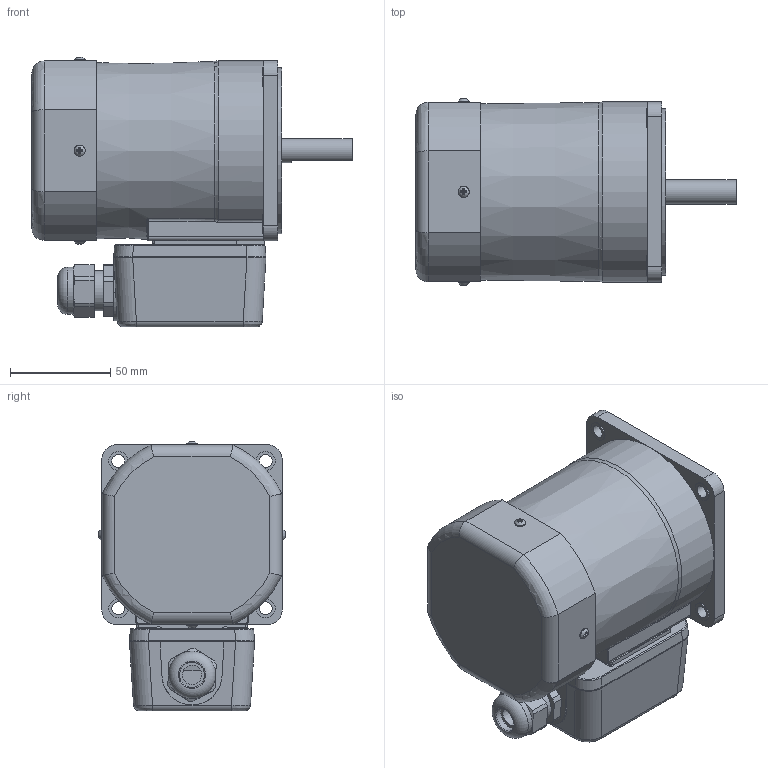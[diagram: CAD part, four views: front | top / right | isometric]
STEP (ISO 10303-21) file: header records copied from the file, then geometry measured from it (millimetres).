
FILE_DESCRIPTION((''),'2;1');
FILE_NAME('D:\김성묵\업무폴더\개발 파일\프로젝트 개발 AB등급\AC표준형 개발자료\90각 이하 표준형 개발\도면작성 자료\3D 도면\홈페이지용 3D 파일\60W MOTOR\T BOX TYPE\S9(I,R)60D-T.stp','2015-03-26T18:27:06',('smkim'),(''),'Autodesk Inventor 2012','Autodesk Inventor 2012','');
FILE_SCHEMA(('AUTOMOTIVE_DESIGN { 1 0 10303 214 1 1 1 1 }'));
Length unit declared in the file: millimetre
Products named in the file (7): S9(I,R)60D-T; S9I60GㅁTCE; FAN COVER; 552300620; 25W_T_BOX; S9I60D
Assembly tree (9 placements, depth 3):
  S9(I,R)60D-T
    S9I60GㅁTCE
    FAN COVER
      FAN COVER
      552300620  x4
    25W_T_BOX
    S9I60D
Bounding box: 159.8 x 93.49 x 134.75 mm (x, y, z)
Volume: 1086594.4 mm3; surface area: 114000.9 mm2
Topology: 8 solids, 15 shells, 496 faces, 1189 edges, 758 vertices
Faces by surface type: plane 264, cylinder 134, bspline 53, torus 33, cone 12
Full cylindrical faces by diameter (mm): 2.55 x2, 3 x8, 3.5 x4, 5.6 x8, 6.3 x4, 6.5 x4, 7 x1, 9 x1, 9.5 x4, 12 x1, 12.5 x1, 15 x1, 20 x2, 21 x1, 23.6 x1, 40 x1, 83 x1, 86 x1
Entity records: 14628 total; most frequent: CARTESIAN_POINT 4583, DIRECTION 1910, ORIENTED_EDGE 1908, EDGE_CURVE 954, AXIS2_PLACEMENT_3D 707, VERTEX_POINT 647, EDGE_LOOP 545, VECTOR 496
